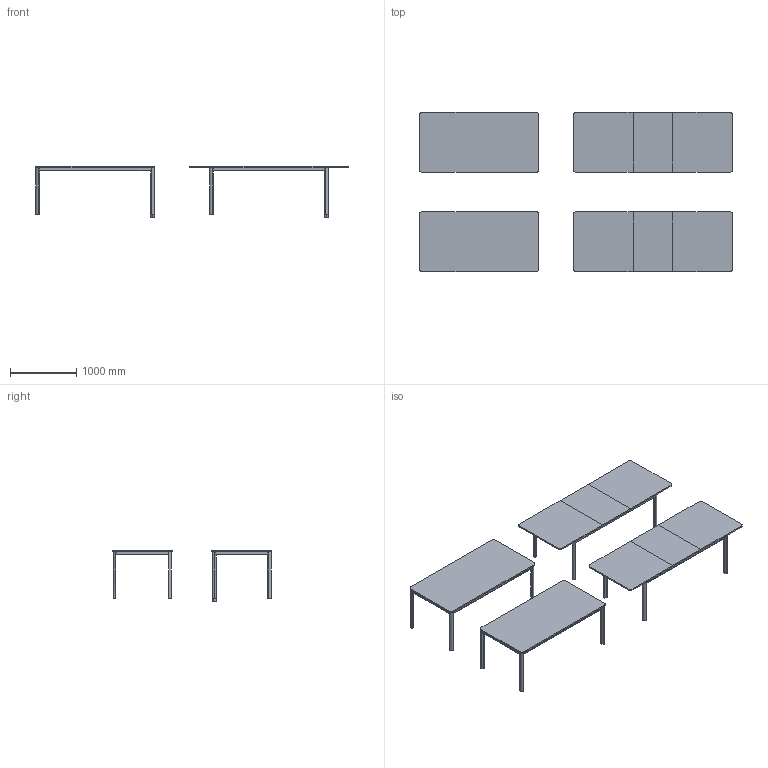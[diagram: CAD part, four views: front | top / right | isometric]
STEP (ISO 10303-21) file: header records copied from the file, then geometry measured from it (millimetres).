
FILE_DESCRIPTION(/* description */ (''),/* implementation_level */ '2;1');
FILE_NAME(/* name */ 'N8_180AZ_',/* time_stamp */ '2025-10-20T18:08:03+02:00',/* author */ (''),/* organization */ (''),/* preprocessor_version */ 'ST-DEVELOPER v16.5',/* originating_system */ 'Rhino 7.38',/* authorisation */ '');
FILE_SCHEMA (('AUTOMOTIVE_DESIGN_CC2'));
Length unit declared in the file: millimetre
Products named in the file (1): Document
Bounding box: 4720.31 x 2400 x 780.03 mm (x, y, z)
Volume: 209633092.7 mm3; surface area: 20846784.8 mm2
Topology: 56 solids, 56 shells, 696 faces, 1794 edges, 1210 vertices
Faces by surface type: bspline 696
Entity records: 50004 total; most frequent: CARTESIAN_POINT 26443, B_SPLINE_CURVE_WITH_KNOTS 4138, ORIENTED_EDGE 3248, PCURVE 3248, DEFINITIONAL_REPRESENTATION 3248, SURFACE_CURVE 1624, EDGE_CURVE 1624, VERTEX_POINT 1040
